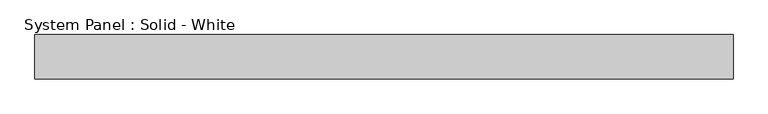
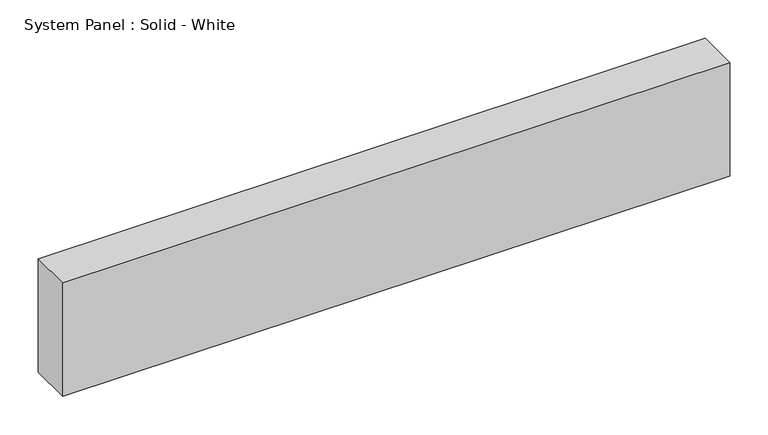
"""IFC4 building model written with IfcOpenShell, lengths in millimetres: plate geometry, System Panel : Solid - White."""

from ifc_helpers import new_model, si_unit, origin, origin_with_axes, place, context, project, spatial, polyline, outline, extrude, source, transform, mapped, element, save


def system_panel_solid_white_cfc009cd(model_context):
    return source(origin(), model_context, "Body", "SweptSolid", [
        extrude(outline(polyline([(501.6499999, -19.05), (-501.6499999, -19.05), (-501.6499999, 44.45), (501.6499999, 44.45), (501.6499999, -19.05)])), origin_with_axes(), (0.0, 0.0, 1.0), 180.5027241),
    ])


if __name__ == "__main__":
    model = new_model("IFC4")
    model_context = context("Model", 3, world=origin())
    ifc_project = project(units=[si_unit("LENGTHUNIT", "METRE", prefix="MILLI")], contexts=[model_context])
    site = spatial("IfcSite", under=ifc_project)
    building = spatial("IfcBuilding", under=site)
    placement = place(None, origin())
    system_panel_solid_white_shape = system_panel_solid_white_cfc009cd(model_context)
    element("IfcPlate", 1, ObjectType="System Panel : Solid - White", at=placement, inside=building, context=model_context, shape_type="MappedRepresentation", body=[
        mapped(system_panel_solid_white_shape, transform((0.0, 0.0, 0.0), x_axis=(1.0, 0.0, 0.0), y_axis=(0.0, 1.0, 0.0), z_axis=(0.0, 0.0, 1.0))),
    ])
    save(model, "model.ifc")
